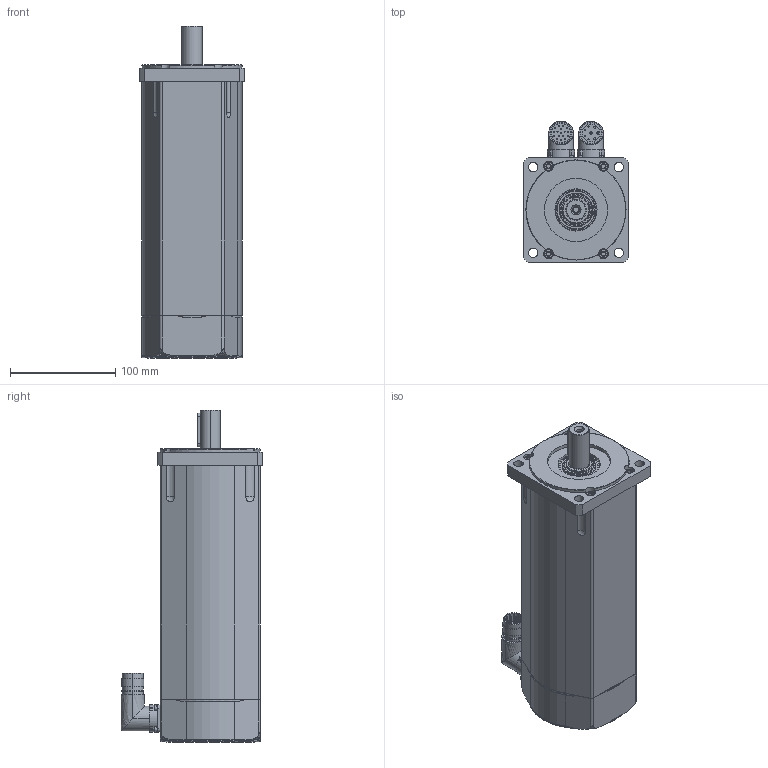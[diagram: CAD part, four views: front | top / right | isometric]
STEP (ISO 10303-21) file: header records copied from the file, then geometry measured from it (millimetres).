
FILE_DESCRIPTION (( 'STEP AP203' ), '1' );
FILE_NAME ('SSAX100XL_SF.STEP', '2015-09-10T14:08:31', ( 'Tecnico motori' ), ( '' ), 'SwSTEP 2.0', 'SolidWorks 2010', '' );
FILE_SCHEMA (( 'CONFIG_CONTROL_DESIGN' ));
Length unit declared in the file: millimetre
Products named in the file (1): SSAX100XL_SF
Bounding box: 100 x 134.5 x 315 mm (x, y, z)
Surface area: 136559.2 mm2 (no closed solid volume)
Topology: 0 solids, 36 shells, 473 faces, 1318 edges, 911 vertices
Faces by surface type: cylinder 204, plane 189, cone 42, torus 30, bspline 8
Entity records: 16643 total; most frequent: CARTESIAN_POINT 4180, DIRECTION 2762, ORIENTED_EDGE 2290, EDGE_CURVE 1318, AXIS2_PLACEMENT_3D 1095, VERTEX_POINT 911, CIRCLE 629, EDGE_LOOP 577
